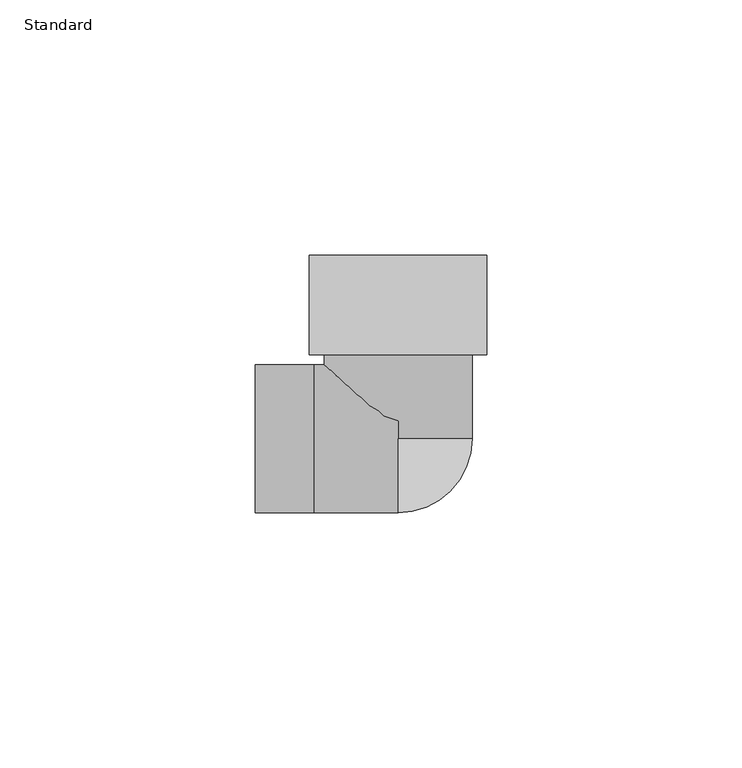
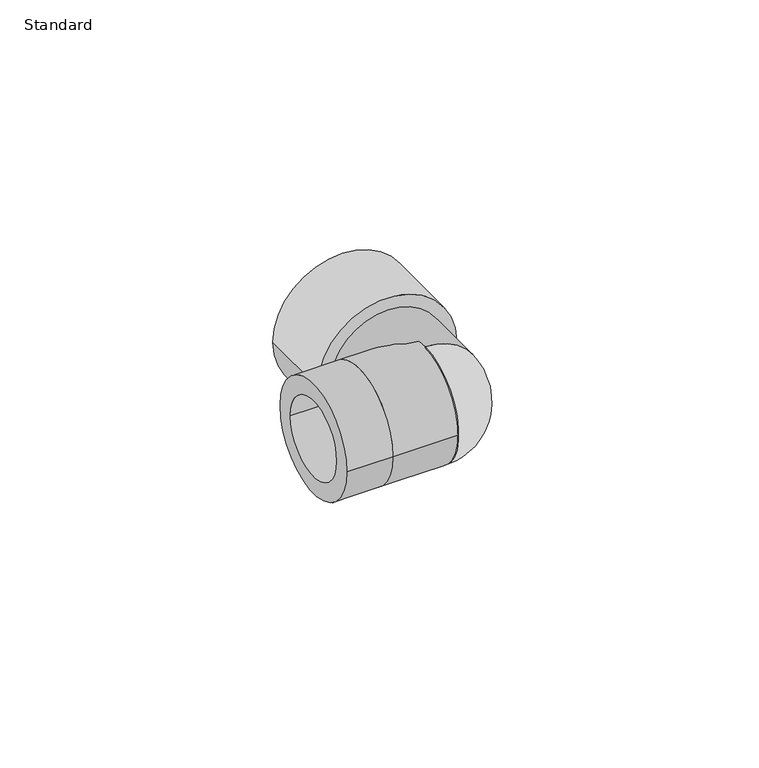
"""IFC4 building model written with IfcOpenShell, lengths in millimetres: pipe fitting geometry, EGB_VASEN_ PPR_Codo rosca hembra WXR202 : Standard."""

from ifc_helpers import new_model, si_unit, point, frame, origin, origin_2d, place, context, project, spatial, circle_curve, ellipse_curve, trimmed, segment, composite_curve, outline, extrude, source, transform, mapped, element, save
from ifc_brep_helpers import plane_surface, revolved_surface, advanced_brep


def standard_d656bfb6(model_context):
    return source(origin(), model_context, "Body", "SolidModel", [
        extrude(outline(composite_curve([segment(trimmed(circle_curve(origin_2d(), 6.35), [point((0.0, 6.35))], [point((0.0, -6.35))], False, "CARTESIAN"), True, "CONTINUOUS"), segment(trimmed(circle_curve(origin_2d(), 6.35), [point((0.0, -6.35))], [point((0.0, 6.35))], False, "CARTESIAN"), True, "CONTINUOUS")], self_intersect=False)), frame((0.0, 16.5, 0.0), z_axis=(0.0, 1.0, 0.0), x_axis=(0.0, 0.0, 1.0)), (0.0, 0.0, 1.0), 19.5),
        advanced_brep(
        [(0.0, 0.0, -14.5), (0.0, 0.0, 14.5)],
        [
            (0, 1, circle_curve(frame((0.0, 0.0, 0.0), z_axis=(-1.0, 0.0, 0.0), x_axis=(0.0, 1.0, 0.0)), 14.5)),
            (1, 0),
            (1, 0, circle_curve(frame((0.0, 0.0, 0.0), z_axis=(0.0, 1.0, 0.0), x_axis=(-1.0, 0.0, 0.0)), 14.5)),
        ],
        [
            plane_surface(frame((0.0, 0.0, 24.5431585), z_axis=(-1.0, 0.0, 0.0), x_axis=(0.0, -1.0, 0.0))),
            plane_surface(frame((0.0, 0.0, 24.5431585), z_axis=(0.0, 1.0, 0.0), x_axis=(1.0, 0.0, 0.0))),
            revolved_surface(trimmed(ellipse_curve(frame((0.0, 0.0, 0.0), z_axis=(1.0, 0.0, 0.0), x_axis=(0.0, 1.0, 0.0)), 14.5, 14.5), [point((0.0, 0.0, 14.5))], [point((0.0, 0.0, -14.5))], True, "CARTESIAN"), (0.0, 0.0, 24.5431585), (0.0, 0.0, -1.0)),
        ],
        [
            (0, [[1, 2]]),
            (1, [[3, -2]]),
            (2, [[-1, -3]]),
        ],
    ),
        extrude(outline(composite_curve([segment(trimmed(circle_curve(origin_2d(), 14.5), [point((-14.5, 0.0))], [point((14.5, 0.0))], False, "CARTESIAN"), True, "CONTINUOUS"), segment(trimmed(circle_curve(origin_2d(), 14.5), [point((14.5, 0.0))], [point((-14.5, 0.0))], False, "CARTESIAN"), True, "CONTINUOUS")], self_intersect=False), holes=[composite_curve([segment(trimmed(circle_curve(origin_2d(), 10.0), [point((-10.0, 0.0))], [point((10.0, 0.0))], True, "CARTESIAN"), True, "CONTINUOUS"), segment(trimmed(circle_curve(origin_2d(), 10.0), [point((10.0, 0.0))], [point((-10.0, 0.0))], True, "CARTESIAN"), True, "CONTINUOUS")], self_intersect=False)]), frame((-28.0, 0.0, 0.0), z_axis=(1.0, 0.0, 0.0), x_axis=(0.0, 1.0, 0.0)), (0.0, 0.0, 1.0), 11.5),
        extrude(outline(composite_curve([segment(trimmed(circle_curve(origin_2d(), 17.4), [point((0.0, 17.4))], [point((0.0, -17.4))], False, "CARTESIAN"), True, "CONTINUOUS"), segment(trimmed(circle_curve(origin_2d(), 17.4), [point((0.0, -17.4))], [point((0.0, 17.4))], False, "CARTESIAN"), True, "CONTINUOUS")], self_intersect=False), holes=[composite_curve([segment(trimmed(circle_curve(origin_2d(), 6.35), [point((0.0, 6.35))], [point((0.0, -6.35))], True, "CARTESIAN"), True, "CONTINUOUS"), segment(trimmed(circle_curve(origin_2d(), 6.35), [point((0.0, -6.35))], [point((0.0, 6.35))], True, "CARTESIAN"), True, "CONTINUOUS")], self_intersect=False)]), frame((0.0, 16.5, 0.0), z_axis=(0.0, 1.0, 0.0), x_axis=(0.0, 0.0, 1.0)), (0.0, 0.0, 1.0), 19.5),
        extrude(outline(composite_curve([segment(trimmed(circle_curve(origin_2d(), 14.5), [point((-14.5, 0.0))], [point((14.5, 0.0))], False, "CARTESIAN"), True, "CONTINUOUS"), segment(trimmed(circle_curve(origin_2d(), 14.5), [point((14.5, 0.0))], [point((-14.5, 0.0))], False, "CARTESIAN"), True, "CONTINUOUS")], self_intersect=False)), frame((-16.5, 0.0, 0.0), z_axis=(1.0, 0.0, 0.0), x_axis=(0.0, 1.0, 0.0)), (0.0, 0.0, 1.0), 16.5),
        extrude(outline(composite_curve([segment(trimmed(circle_curve(origin_2d(), 14.5), [point((0.0, -14.5))], [point((0.0, 14.5))], False, "CARTESIAN"), True, "CONTINUOUS"), segment(trimmed(circle_curve(origin_2d(), 14.5), [point((0.0, 14.5))], [point((0.0, -14.5))], False, "CARTESIAN"), True, "CONTINUOUS")], self_intersect=False)), frame((0.0, 0.0, 0.0), z_axis=(0.0, 1.0, 0.0), x_axis=(0.0, 0.0, 1.0)), (0.0, 0.0, 1.0), 16.5),
    ])


if __name__ == "__main__":
    model = new_model("IFC4")
    model_context = context("Model", 3, world=origin())
    ifc_project = project(units=[si_unit("LENGTHUNIT", "METRE", prefix="MILLI")], contexts=[model_context])
    site = spatial("IfcSite", under=ifc_project)
    building = spatial("IfcBuilding", under=site)
    placement = place(None, origin())
    standard_shape = standard_d656bfb6(model_context)
    element("IfcPipeFitting", 1, ObjectType="EGB_VASEN_ PPR_Codo rosca hembra WXR202 : Standard", at=placement, inside=building, context=model_context, shape_type="MappedRepresentation", body=[
        mapped(standard_shape, transform((0.0, 0.0, 0.0), x_axis=(1.0, 0.0, 0.0), y_axis=(0.0, 1.0, 0.0), z_axis=(0.0, 0.0, 1.0))),
    ])
    save(model, "model.ifc")
